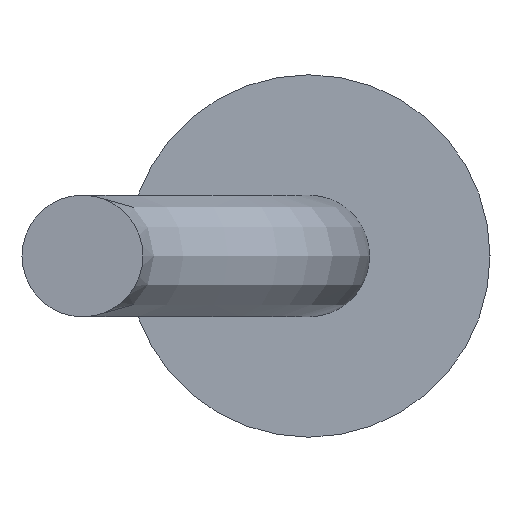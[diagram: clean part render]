
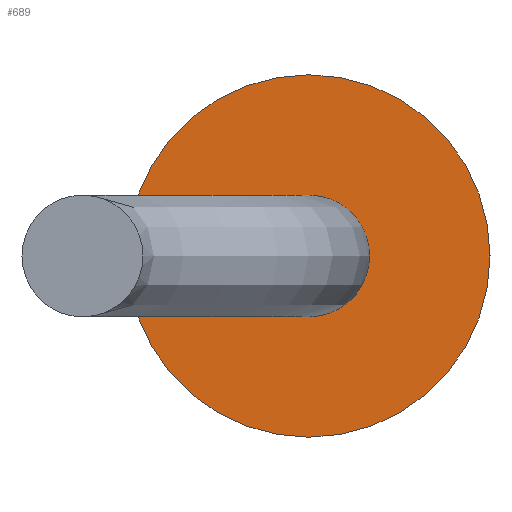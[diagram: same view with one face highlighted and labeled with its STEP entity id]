
A CAD part, left-side view. The second image highlights one B-rep face of the part: STEP entity #689.
In plain terms, the highlighted planar face has unit normal (-1, 0, 0).
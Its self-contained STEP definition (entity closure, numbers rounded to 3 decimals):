
#2 = CIRCLE ( 'NONE', #643, 7. ) ;
#13 = CARTESIAN_POINT ( 'NONE',  ( 0., 0., 2.35 ) ) ;
#45 = EDGE_LOOP ( 'NONE', ( #826, #152 ) ) ;
#52 = CARTESIAN_POINT ( 'NONE',  ( 0., 0., -7. ) ) ;
#81 = DIRECTION ( 'NONE',  ( -1., 0., 0. ) ) ;
#89 = VERTEX_POINT ( 'NONE', #52 ) ;
#96 = DIRECTION ( 'NONE',  ( 1., 0., 0. ) ) ;
#111 = VERTEX_POINT ( 'NONE', #535 ) ;
#120 = DIRECTION ( 'NONE',  ( 0., 0., 1. ) ) ;
#152 = ORIENTED_EDGE ( 'NONE', *, *, #230, .F. ) ;
#168 = EDGE_CURVE ( 'NONE', #111, #89, #897, .T. ) ;
#205 = CARTESIAN_POINT ( 'NONE',  ( 0., 0., -2.35 ) ) ;
#230 = EDGE_CURVE ( 'NONE', #886, #272, #726, .T. ) ;
#250 = DIRECTION ( 'NONE',  ( 0., 0., 1. ) ) ;
#252 = ORIENTED_EDGE ( 'NONE', *, *, #168, .F. ) ;
#272 = VERTEX_POINT ( 'NONE', #13 ) ;
#293 = CARTESIAN_POINT ( 'NONE',  ( 0., 0., 0. ) ) ;
#357 = AXIS2_PLACEMENT_3D ( 'NONE', #293, #801, #763 ) ;
#359 = DIRECTION ( 'NONE',  ( 1., 0., 0. ) ) ;
#448 = AXIS2_PLACEMENT_3D ( 'NONE', #495, #918, #120 ) ;
#492 = CARTESIAN_POINT ( 'NONE',  ( 0., 0., 0. ) ) ;
#495 = CARTESIAN_POINT ( 'NONE',  ( 0., 5.25, 0. ) ) ;
#513 = EDGE_CURVE ( 'NONE', #272, #886, #947, .T. ) ;
#535 = CARTESIAN_POINT ( 'NONE',  ( 0., 0., 7. ) ) ;
#566 = CARTESIAN_POINT ( 'NONE',  ( 0., 0., 0. ) ) ;
#571 = PLANE ( 'NONE',  #448 ) ;
#630 = DIRECTION ( 'NONE',  ( 0., 0., -1. ) ) ;
#636 = CARTESIAN_POINT ( 'NONE',  ( 0., 0., 0. ) ) ;
#643 = AXIS2_PLACEMENT_3D ( 'NONE', #566, #96, #630 ) ;
#689 = ADVANCED_FACE ( 'NONE', ( #787, #849 ), #571, .T. ) ;
#719 = DIRECTION ( 'NONE',  ( 0., 0., -1. ) ) ;
#726 = CIRCLE ( 'NONE', #876, 2.35 ) ;
#746 = EDGE_CURVE ( 'NONE', #89, #111, #2, .T. ) ;
#763 = DIRECTION ( 'NONE',  ( 0., 0., 1. ) ) ;
#787 = FACE_BOUND ( 'NONE', #45, .T. ) ;
#801 = DIRECTION ( 'NONE',  ( -1., 0., 0. ) ) ;
#826 = ORIENTED_EDGE ( 'NONE', *, *, #513, .F. ) ;
#831 = EDGE_LOOP ( 'NONE', ( #929, #252 ) ) ;
#849 = FACE_OUTER_BOUND ( 'NONE', #831, .T. ) ;
#875 = AXIS2_PLACEMENT_3D ( 'NONE', #492, #359, #719 ) ;
#876 = AXIS2_PLACEMENT_3D ( 'NONE', #636, #81, #250 ) ;
#886 = VERTEX_POINT ( 'NONE', #205 ) ;
#897 = CIRCLE ( 'NONE', #875, 7. ) ;
#918 = DIRECTION ( 'NONE',  ( -1., 0., 0. ) ) ;
#929 = ORIENTED_EDGE ( 'NONE', *, *, #746, .F. ) ;
#947 = CIRCLE ( 'NONE', #357, 2.35 ) ;
